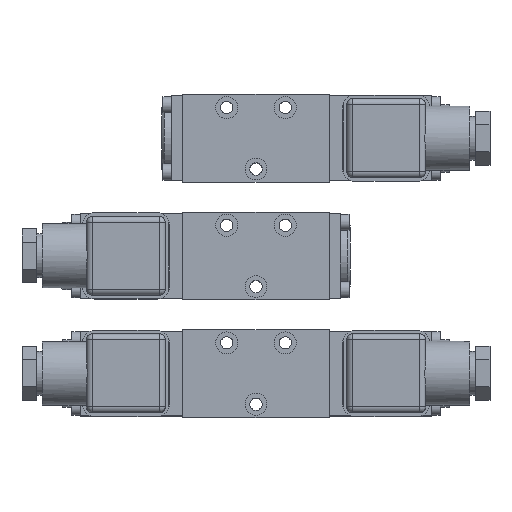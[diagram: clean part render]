
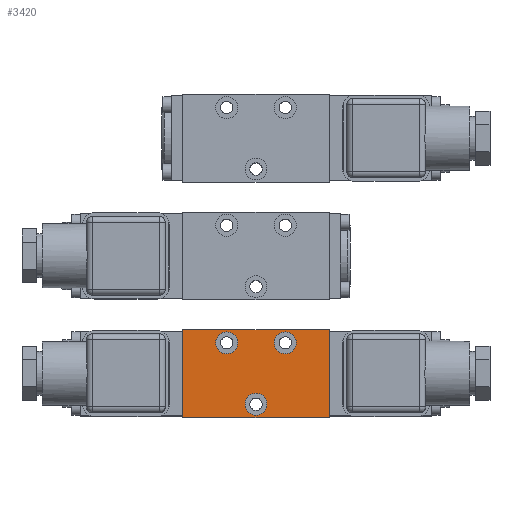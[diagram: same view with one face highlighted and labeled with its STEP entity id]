
A CAD part, top view. The second image highlights one B-rep face of the part: STEP entity #3420.
In plain terms, the highlighted planar face has unit normal (0, 0, 1).
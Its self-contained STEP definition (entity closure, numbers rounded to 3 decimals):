
#3420=ADVANCED_FACE('', (#3430,#3440,#3450,#3460), #3470, .T.);
#42300=AXIS2_PLACEMENT_3D('Ax2Pl3d', #42310, #42320, #42330);
#42340=AXIS2_PLACEMENT_3D('Ax2Pl3d', #42350, #42360, #42370);
#42380=AXIS2_PLACEMENT_3D('Ax2Pl3d', #42390, #42400, #42410);
#42420=AXIS2_PLACEMENT_3D('Ax2Pl3d', #42430, #42440, #42450);
#139410=CARTESIAN_POINT('', (0.,0.,30.));
#139420=CARTESIAN_POINT('', (0.,0.,30.));
#139430=CARTESIAN_POINT('', (0.,30.,30.));
#139540=CARTESIAN_POINT('', (50.,30.,30.));
#139550=CARTESIAN_POINT('', (50.,30.,30.));
#139560=CARTESIAN_POINT('', (50.,0.,30.));
#42310=CARTESIAN_POINT('HicPkt', (15.,25.5,30.));
#139700=CARTESIAN_POINT('', (15.,29.25,30.));
#42350=CARTESIAN_POINT('HicPkt', (0.,30.,30.));
#139710=CARTESIAN_POINT('', (50.,0.,30.));
#139720=CARTESIAN_POINT('', (0.,30.,30.));
#42390=CARTESIAN_POINT('HicPkt', (35.,25.5,30.));
#139730=CARTESIAN_POINT('', (35.,29.25,30.));
#42430=CARTESIAN_POINT('HicPkt', (25.,4.5,30.));
#139740=CARTESIAN_POINT('', (25.,8.25,30.));
#166800=CIRCLE('Circle', #42300, 3.75);
#166810=CIRCLE('Circle', #42380, 3.75);
#166820=CIRCLE('Circle', #42420, 3.75);
#247780=DIRECTION('', (0.,-1.,0.));
#247810=DIRECTION('', (0.,1.,0.));
#42320=DIRECTION('Axis', (0.,0.,1.));
#42330=DIRECTION('RefDirection', (1.,0.,0.));
#42360=DIRECTION('Axis', (0.,0.,1.));
#42370=DIRECTION('RefDirection', (1.,0.,0.));
#247830=DIRECTION('', (1.,0.,0.));
#247840=DIRECTION('', (-1.,0.,0.));
#42400=DIRECTION('Axis', (0.,0.,1.));
#42410=DIRECTION('RefDirection', (1.,0.,0.));
#42440=DIRECTION('Axis', (0.,0.,1.));
#42450=DIRECTION('RefDirection', (1.,0.,0.));
#260740=EDGE_CURVE('', #260750, #260720, #260760, .T.);
#260980=EDGE_CURVE('', #260990, #260960, #261000, .T.);
#261270=EDGE_CURVE('', #261280, #261280, #166800, .T.);
#261290=EDGE_CURVE('', #260720, #260990, #261300, .T.);
#261310=EDGE_CURVE('', #260960, #260750, #261320, .T.);
#261330=EDGE_CURVE('', #261340, #261340, #166810, .T.);
#261350=EDGE_CURVE('', #261360, #261360, #166820, .T.);
#309420=EDGE_LOOP('Edge_loop', (#309430,#309440,#309450,#309460));
#309470=EDGE_LOOP('Edge_loop', (#309480));
#309490=EDGE_LOOP('Edge_loop', (#309500));
#309510=EDGE_LOOP('Edge_loop', (#309520));
#3440=FACE_BOUND('', #309470, .T.);
#3450=FACE_BOUND('', #309490, .T.);
#3460=FACE_BOUND('', #309510, .T.);
#3430=FACE_OUTER_BOUND('Face_outer_bound', #309420, .T.);
#260760=LINE('Line', #139420, #389360);
#261000=LINE('Line', #139550, #389390);
#261300=LINE('Line', #139710, #389410);
#261320=LINE('Line', #139720, #389420);
#309430=ORIENTED_EDGE('', *, *, #260740, .T.);
#309440=ORIENTED_EDGE('', *, *, #261290, .T.);
#309450=ORIENTED_EDGE('', *, *, #260980, .T.);
#309460=ORIENTED_EDGE('', *, *, #261310, .T.);
#309480=ORIENTED_EDGE('', *, *, #261270, .F.);
#309500=ORIENTED_EDGE('', *, *, #261330, .F.);
#309520=ORIENTED_EDGE('', *, *, #261350, .F.);
#3470=PLANE('Plane', #42340);
#389360=VECTOR('', #247780, 30.);
#389390=VECTOR('', #247810, 30.);
#389410=VECTOR('', #247830, 50.);
#389420=VECTOR('', #247840, 50.);
#260720=VERTEX_POINT('', #139410);
#260750=VERTEX_POINT('', #139430);
#260960=VERTEX_POINT('', #139540);
#260990=VERTEX_POINT('', #139560);
#261280=VERTEX_POINT('', #139700);
#261340=VERTEX_POINT('', #139730);
#261360=VERTEX_POINT('', #139740);
